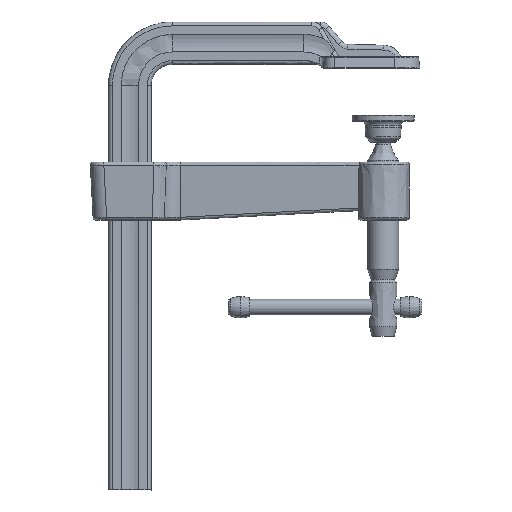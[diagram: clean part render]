
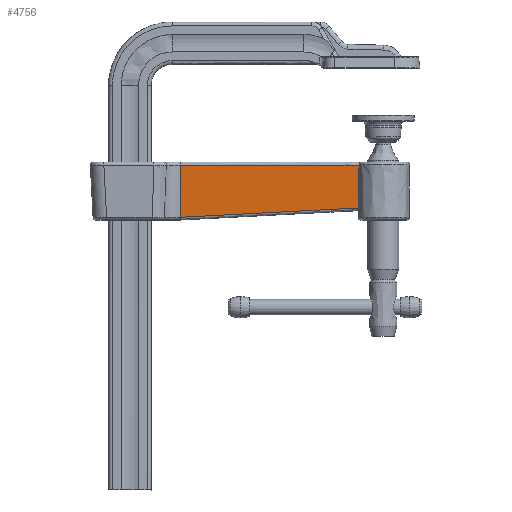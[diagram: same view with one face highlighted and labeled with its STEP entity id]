
A CAD part, left-side view. The second image highlights one B-rep face of the part: STEP entity #4756.
In plain terms, the highlighted free-form (B-spline) face has degree [1, 1] with [2, 2] control points.
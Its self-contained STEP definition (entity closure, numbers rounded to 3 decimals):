
#4679=CARTESIAN_POINT('',(-12.963,-4.004,6.229));
#4680=VERTEX_POINT('',#4679);
#4687=CARTESIAN_POINT('',(-12.472,-5.167,28.421));
#4688=VERTEX_POINT('',#4687);
#4689=CARTESIAN_POINT('',(-12.963,-4.004,6.229));
#4690=CARTESIAN_POINT('',(-12.472,-5.167,28.421));
#4691=B_SPLINE_CURVE_WITH_KNOTS('',1,(#4689,#4690),.POLYLINE_FORM.,.F.,.U.,(2,2),(0.208,0.947),.UNSPECIFIED.);
#4692=EDGE_CURVE('',#4680,#4688,#4691,.T.);
#4722=CARTESIAN_POINT('',(-3.004,-1.913,-33.674));
#4723=CARTESIAN_POINT('',(-3.004,-7.013,63.633));
#4724=CARTESIAN_POINT('',(-104.864,-1.913,-33.674));
#4725=CARTESIAN_POINT('',(-104.864,-7.013,63.633));
#4726=B_SPLINE_SURFACE_WITH_KNOTS('',1,1,((#4722,#4723),(#4724,#4725)),.PLANE_SURF.,.F.,.F.,.U.,(2,2),(2,2),(-0.102,1.),(-1.122,2.121),.UNSPECIFIED.);
#4727=CARTESIAN_POINT('',(-104.702,-3.752,1.421));
#4728=VERTEX_POINT('',#4727);
#4729=CARTESIAN_POINT('',(-104.864,-3.752,1.421));
#4730=VERTEX_POINT('',#4729);
#4731=CARTESIAN_POINT('',(-104.702,-3.752,1.421));
#4732=CARTESIAN_POINT('',(-104.864,-3.752,1.421));
#4733=B_SPLINE_CURVE_WITH_KNOTS('',1,(#4731,#4732),.POLYLINE_FORM.,.F.,.U.,(2,2),(0.195,1.),.UNSPECIFIED.);
#4734=EDGE_CURVE('',#4728,#4730,#4733,.T.);
#4735=ORIENTED_EDGE('',*,*,#4734,.T.);
#4736=CARTESIAN_POINT('',(-104.864,-5.167,28.421));
#4737=VERTEX_POINT('',#4736);
#4738=CARTESIAN_POINT('',(-104.864,-3.752,1.421));
#4739=CARTESIAN_POINT('',(-104.864,-5.167,28.421));
#4740=B_SPLINE_CURVE_WITH_KNOTS('',1,(#4738,#4739),.POLYLINE_FORM.,.F.,.U.,(2,2),(0.047,0.947),.UNSPECIFIED.);
#4741=EDGE_CURVE('',#4730,#4737,#4740,.T.);
#4742=ORIENTED_EDGE('',*,*,#4741,.T.);
#4743=CARTESIAN_POINT('',(-12.472,-5.167,28.421));
#4744=CARTESIAN_POINT('',(-104.864,-5.167,28.421));
#4745=B_SPLINE_CURVE_WITH_KNOTS('',1,(#4743,#4744),.POLYLINE_FORM.,.F.,.U.,(2,2),(0.011,1.),.UNSPECIFIED.);
#4746=EDGE_CURVE('',#4688,#4737,#4745,.T.);
#4747=ORIENTED_EDGE('',*,*,#4746,.F.);
#4748=ORIENTED_EDGE('',*,*,#4692,.F.);
#4749=CARTESIAN_POINT('',(-12.963,-4.004,6.229));
#4750=CARTESIAN_POINT('',(-104.702,-3.752,1.421));
#4751=B_SPLINE_CURVE_WITH_KNOTS('',1,(#4749,#4750),.POLYLINE_FORM.,.F.,.U.,(2,2),(0.,1.),.UNSPECIFIED.);
#4752=EDGE_CURVE('',#4680,#4728,#4751,.T.);
#4753=ORIENTED_EDGE('',*,*,#4752,.T.);
#4754=EDGE_LOOP('',(#4735,#4742,#4747,#4748,#4753));
#4755=FACE_OUTER_BOUND('',#4754,.F.);
#4756=ADVANCED_FACE('',(#4755),#4726,.F.);
